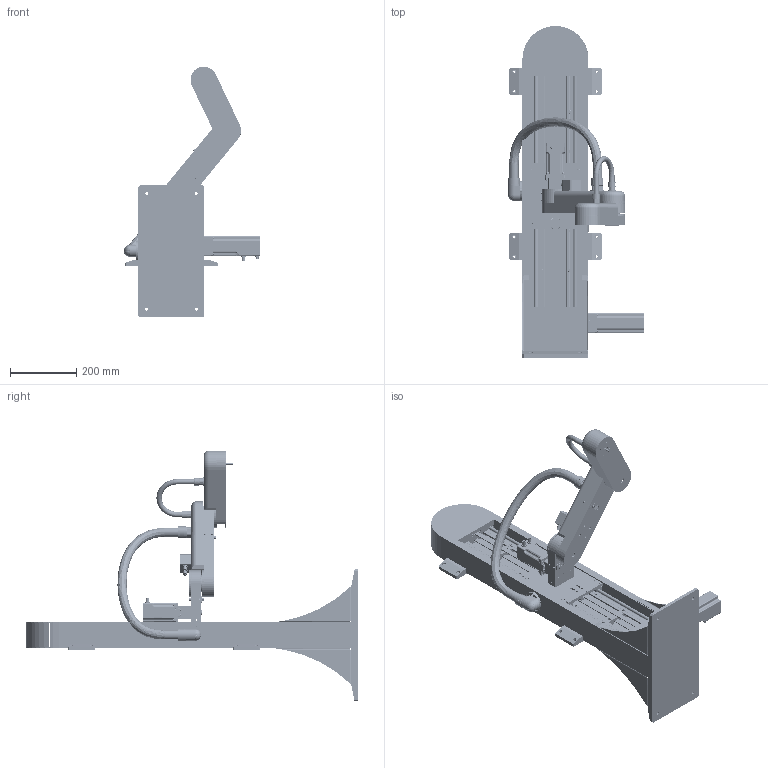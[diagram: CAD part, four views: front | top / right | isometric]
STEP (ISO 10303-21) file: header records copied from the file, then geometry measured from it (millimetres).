
FILE_DESCRIPTION(/* description */ ('STEP AP214'),/* implementation_level */ '2;1');
FILE_NAME(/* name */ 'C:\Users\fberger\OneDrive - igus GmbH\Desktop\Neuer Ordner (3)\SCARA.stp',/* time_stamp */ '2021-03-11T15:02:56+01:00',/* author */ ('fberger'),/* organization */ (''),/* preprocessor_version */ 'ST-DEVELOPER v18.1',/* originating_system */ 'Autodesk Inventor 2020',/* authorisation */ '');
FILE_SCHEMA (('AUTOMOTIVE_DESIGN { 1 0 10303 214 3 1 1 }'));
Products named in the file (79): _BG_SCARA_Testversion_V01; ZLW-10120S-I0BV0-D0A4B-AO0A0AE-500; WS-10-730-C5=C6=5; ZSY-10120-001; NOR-10601; ZT-10120-01; ZT-10120-01_1; ZTY-10120-001; NOR-10629; NOR-20908; ZTY-10120-002; ZTY-10120-003; NOR-10514; MH-05; ZW-10120-20-01-WJ200UM-01-10; ZWY-10120-001-200; WJ200UM-01-10; WJ200UM-01-10_1; WJ200UM-01-10_2; WJ200UM-01-10_3; WM-01-10; J200UMO-01-10; NOR-10589; ZWY-10120-003; ZWY-10120-002; NOR-10601_1; ZR-104002-XX; MK-0668; MOT-AN-S-060-035-060-M-D-AAAD; 1; 2; MF-10120-NEMA23-S; ZTY-10120-005; NOR-10552; NOR-10210; NOR-11003; NOR-10552_1; COU-AR-K-080-100-25-22-B-AAAA; BG_A2_V01; Verbinder_A1A2_V01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
Assembly tree (171 placements, depth 5):
  _BG_SCARA_Testversion_V01
    ZLW-10120S-I0BV0-D0A4B-AO0A0AE-500
      WS-10-730-C5=C6=5  x2
      ZSY-10120-001  x3
      NOR-10601  x6
      ZT-10120-01
        ZTY-10120-001
        NOR-10629  x2
        NOR-20908  x2
        ZTY-10120-003  x2
        ZTY-10120-002
        NOR-10514  x4
        MH-05  x4
      ZT-10120-01_1
        ZTY-10120-001
        NOR-10629  x2
        NOR-20908  x2
        ZTY-10120-003  x2
        ZTY-10120-002
        NOR-10514  x4
        MH-05  x4
      ZW-10120-20-01-WJ200UM-01-10
        ZWY-10120-001-200
        WJ200UM-01-10
          WM-01-10
          J200UMO-01-10
        WJ200UM-01-10_1
          WM-01-10
          J200UMO-01-10
        WJ200UM-01-10_2
          WM-01-10
          J200UMO-01-10
        WJ200UM-01-10_3
          WM-01-10
          J200UMO-01-10
        NOR-10589
        ZWY-10120-002  x2
        ZWY-10120-003
        NOR-10601_1  x4
        NOR-10552  x6
      ZR-104002-XX
      MK-0668
        MOT-AN-S-060-035-060-M-D-AAAD
          1
          2
        MF-10120-NEMA23-S
          ZTY-10120-005
          NOR-10552  x8
          NOR-10210  x2
          NOR-11003  x4
          NOR-10552_1  x4
        COU-AR-K-080-100-25-22-B-AAAA
    BG_A2_V01
      Verbinder_A1A2_V01
      HTD_3M_12z_17021200
      Welle_Ritzel_5mm
      Flanschlager_F605  x2
      BG_Riemenspanner
        Flanschlager_F605  x2
        socket head cap screw_din_DIN 912 M5 x 40 --- 22N
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Bounding box: 412.95 x 1005 x 758.92 mm (x, y, z)
Volume: 6949093.8 mm3; surface area: 2644469.4 mm2
Topology: 182 solids, 194 shells, 6909 faces, 20061 edges, 13813 vertices
Faces by surface type: plane 3345, cylinder 2458, cone 509, torus 350, bspline 169, sphere 78
Full cylindrical faces by diameter (mm): 1 x30, 1.3 x2, 2 x25, 2.013 x9, 2.1 x2, 2.224 x4, 2.4 x4, 2.459 x13, 2.5 x26, 2.693 x4, 2.75 x4, 2.8 x4, 2.9 x4, 3 x20, 3.2 x4, 3.242 x37, 3.4 x13, 4 x37, 4.134 x8, 4.2 x8, 4.3 x24, 4.5 x5, 4.7 x4, 4.917 x24, 5 x43, 5.05 x1, 5.3 x14, 5.5 x49, 6 x20, 6.2 x4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
Entity records: 153548 total; most frequent: CARTESIAN_POINT 40304, DIRECTION 23810, ORIENTED_EDGE 22620, EDGE_CURVE 11310, AXIS2_PLACEMENT_3D 9172, VERTEX_POINT 7821, LINE 5466, VECTOR 5466
